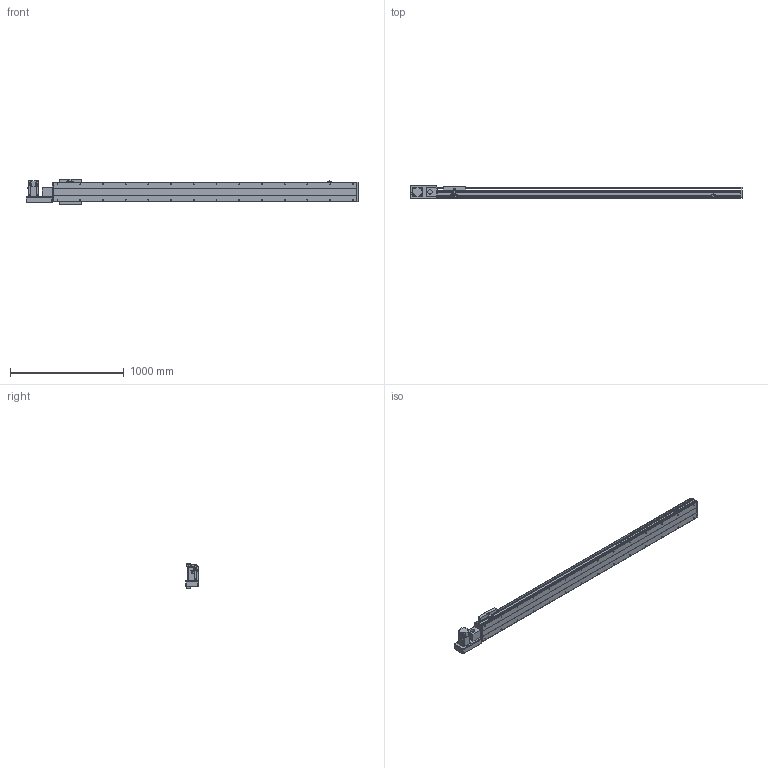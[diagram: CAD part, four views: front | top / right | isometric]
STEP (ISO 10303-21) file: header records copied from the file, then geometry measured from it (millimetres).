
FILE_DESCRIPTION(/* description */ ('STEP AP214'),/* implementation_level */ '2;1');
FILE_NAME(/* name */ 'PBS200-P40-S2300-L-T75-C1-N(0)',/* time_stamp */ '2022-06-11T07:50:35+02:00',/* author */ ('License CC BY-ND 4.0'),/* organization */ ('CADENAS'),/* preprocessor_version */ 'ST-DEVELOPER v18.102',/* originating_system */ 'PARTsolutions',/* authorisation */ ' ');
FILE_SCHEMA (('AUTOMOTIVE_DESIGN {1 0 10303 214 3 1 1}'));
Length unit declared in the file: millimetre
Products named in the file (7): PBS200-P40-S2300-L-T75-C1-N(0); PBS200_sensor; PBS200_plant; PBS200_sliser; T75-p1; PBS200T-L_motors; PBS200-S2300()_body
Assembly tree (8 placements, depth 2):
  PBS200-P40-S2300-L-T75-C1-N(0)
    PBS200_sensor  x3
    PBS200_plant
    PBS200_sliser
    T75-p1
    PBS200T-L_motors
    PBS200-S2300()_body
Bounding box: 2922 x 109 x 221 mm (x, y, z)
Volume: 19355425.5 mm3; surface area: 3099216.1 mm2
Topology: 8 solids, 8 shells, 956 faces, 2434 edges, 1584 vertices
Faces by surface type: plane 586, cylinder 310, cone 60
Full cylindrical faces by diameter (mm): 2.459 x6, 3.242 x4, 4.5 x6, 4.917 x4, 5 x6, 6 x7, 6.6 x8, 6.647 x32, 8 x6, 10 x4, 12 x8, 38 x2, 40 x1, 70 x1
Entity records: 25301 total; most frequent: DIRECTION 4471, CARTESIAN_POINT 4300, ORIENTED_EDGE 4054, EDGE_CURVE 2027, AXIS2_PLACEMENT_3D 1579, VERTEX_POINT 1408, LINE 1313, VECTOR 1313
